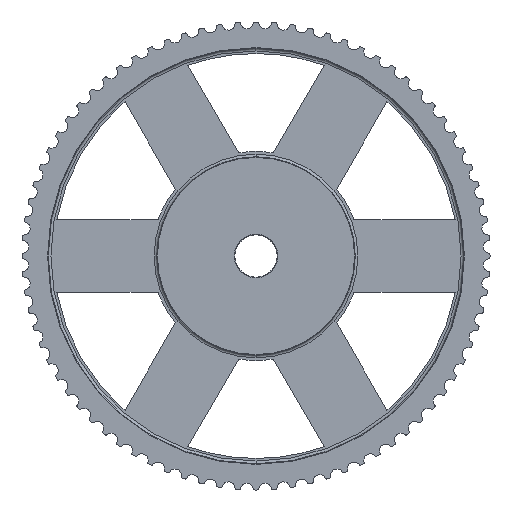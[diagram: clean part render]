
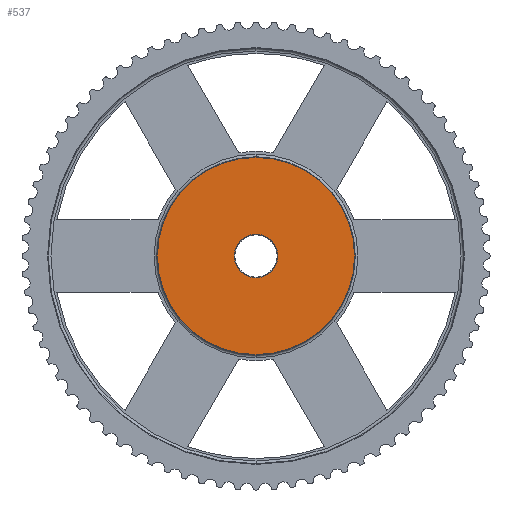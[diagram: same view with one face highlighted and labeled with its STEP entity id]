
A CAD part, left-side view. The second image highlights one B-rep face of the part: STEP entity #537.
In plain terms, the highlighted planar face has unit normal (-1, 0, 0).
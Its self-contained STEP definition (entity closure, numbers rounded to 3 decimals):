
#537=ADVANCED_FACE('',(#1480,#1481),#1482,.T.);
#1480=FACE_BOUND('',#2426,.T.);
#1481=FACE_OUTER_BOUND('',#2427,.T.);
#1482=PLANE('',#2428);
#2426=EDGE_LOOP('',(#6534,#6535));
#2427=EDGE_LOOP('',(#6536,#6537));
#2428=AXIS2_PLACEMENT_3D('',#6538,#6539,#6540);
#6534=ORIENTED_EDGE('',*,*,#6619,.T.);
#6535=ORIENTED_EDGE('',*,*,#6625,.T.);
#6536=ORIENTED_EDGE('',*,*,#7907,.T.);
#6537=ORIENTED_EDGE('',*,*,#6558,.T.);
#6538=CARTESIAN_POINT('',(0.0,0.0,0.0));
#6539=DIRECTION('',(-1.0,0.0,0.0));
#6540=DIRECTION('',(0.0,0.0,1.0));
#6558=EDGE_CURVE('',#7930,#7927,#7931,.T.);
#6619=EDGE_CURVE('',#8039,#8041,#8043,.T.);
#6625=EDGE_CURVE('',#8041,#8039,#8051,.T.);
#7907=EDGE_CURVE('',#7927,#7930,#10173,.T.);
#7927=VERTEX_POINT('',#10197);
#7930=VERTEX_POINT('',#10201);
#7931=CIRCLE('',#10202,74.5);
#8039=VERTEX_POINT('',#10331);
#8041=VERTEX_POINT('',#10334);
#8043=CIRCLE('',#10337,16.5);
#8051=CIRCLE('',#10347,16.5);
#10173=CIRCLE('',#12913,74.5);
#10197=CARTESIAN_POINT('',(0.0,74.5,0.0));
#10201=CARTESIAN_POINT('',(0.0,-74.5,0.));
#10202=AXIS2_PLACEMENT_3D('',#12936,#12937,#12938);
#10331=CARTESIAN_POINT('',(0.0,16.5,0.0));
#10334=CARTESIAN_POINT('',(0.0,-16.5,0.));
#10337=AXIS2_PLACEMENT_3D('',#13073,#13074,#13075);
#10347=AXIS2_PLACEMENT_3D('',#13087,#13088,#13089);
#12913=AXIS2_PLACEMENT_3D('',#16045,#16046,#16047);
#12936=CARTESIAN_POINT('',(0.0,0.0,0.));
#12937=DIRECTION('',(-1.0,0.0,0.0));
#12938=DIRECTION('',(0.0,1.0,0.0));
#13073=CARTESIAN_POINT('',(0.0,0.0,0.0));
#13074=DIRECTION('',(1.0,0.0,0.0));
#13075=DIRECTION('',(0.0,1.0,0.0));
#13087=CARTESIAN_POINT('',(0.0,0.0,0.0));
#13088=DIRECTION('',(1.0,0.0,0.0));
#13089=DIRECTION('',(0.0,1.0,0.0));
#16045=CARTESIAN_POINT('',(0.0,0.0,0.));
#16046=DIRECTION('',(-1.0,0.0,0.0));
#16047=DIRECTION('',(0.0,1.0,0.0));
